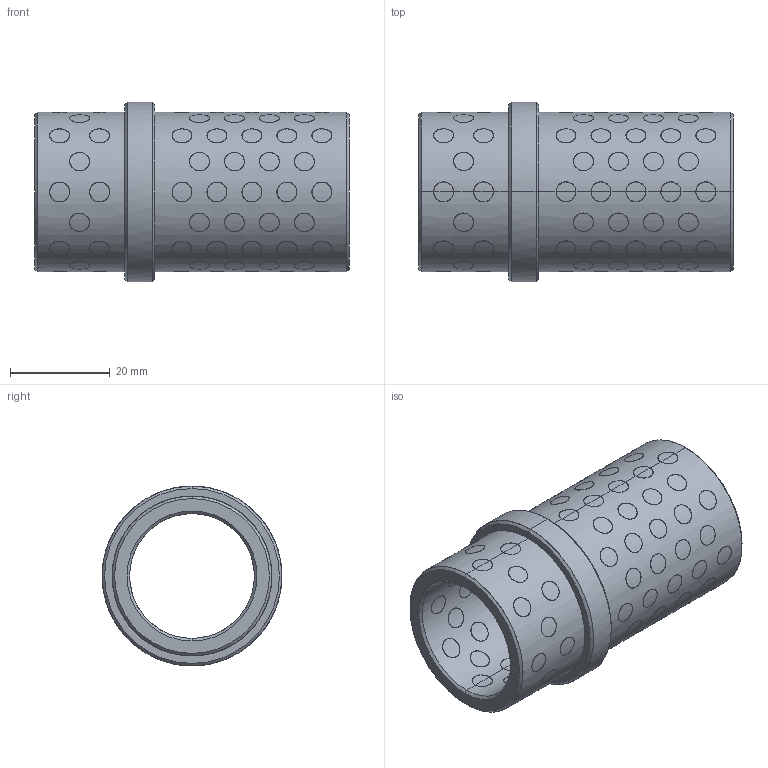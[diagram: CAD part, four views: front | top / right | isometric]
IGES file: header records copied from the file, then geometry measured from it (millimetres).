
Start section: START RECORD GO HERE.
Global section: file name: G4022545.igs; native system: DASSAULT SYSTEMES CATIA V5 R20 - www.3ds.com; preprocessor: CATIA Version 5 Release 20 ; author: r.borello; organization: CFTORINO; date: 20190624.143817; units: millimetre
Bounding box: 63 x 36 x 36 mm (x, y, z)
Surface area: 20612.6 mm2 (no closed solid volume)
Topology: 0 solids, 0 shells, 628 faces, 2736 edges, 2736 vertices
Faces by surface type: revolution 624, plane 4
